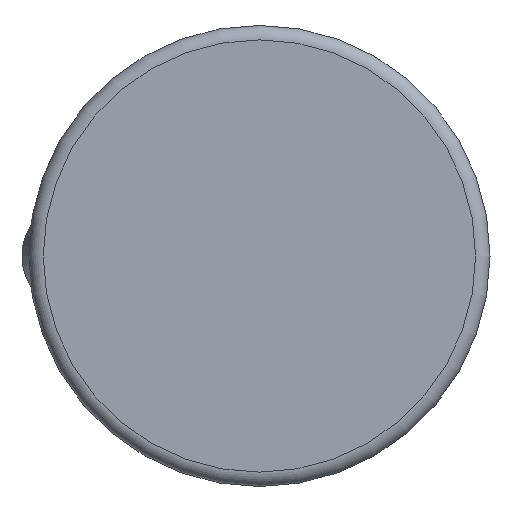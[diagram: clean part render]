
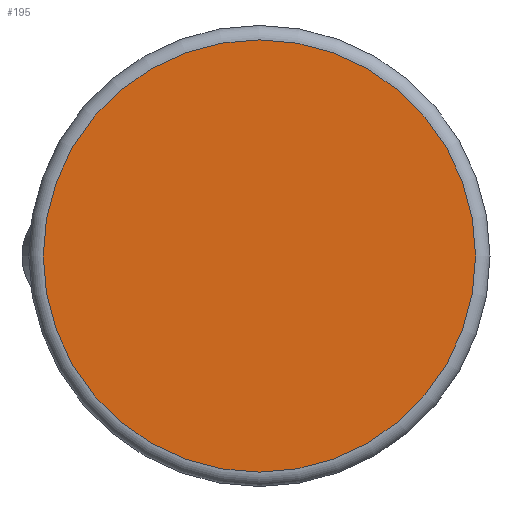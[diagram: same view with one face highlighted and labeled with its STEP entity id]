
A CAD part, front view. The second image highlights one B-rep face of the part: STEP entity #195.
In plain terms, the highlighted planar face has unit normal (0, -1, 0).
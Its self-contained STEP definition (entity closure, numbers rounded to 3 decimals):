
#195 = ADVANCED_FACE( '', ( #374 ), #375, .F. );
#374 = FACE_OUTER_BOUND( '', #556, .T. );
#375 = PLANE( '', #557 );
#556 = EDGE_LOOP( '', ( #865 ) );
#557 = AXIS2_PLACEMENT_3D( '', #866, #867, #868 );
#865 = ORIENTED_EDGE( '', *, *, #1114, .T. );
#866 = CARTESIAN_POINT( '', ( 15., 0., 0. ) );
#867 = DIRECTION( '', ( 0., 1., 0. ) );
#868 = DIRECTION( '', ( 0., 0., 1. ) );
#1114 = EDGE_CURVE( '', #1306, #1306, #1307, .T. );
#1306 = VERTEX_POINT( '', #1757 );
#1307 = CIRCLE( '', #1758, 15. );
#1757 = CARTESIAN_POINT( '', ( 0., 0., -15. ) );
#1758 = AXIS2_PLACEMENT_3D( '', #1888, #1889, #1890 );
#1888 = CARTESIAN_POINT( '', ( 0., 0., 0. ) );
#1889 = DIRECTION( '', ( 0., -1., 0. ) );
#1890 = DIRECTION( '', ( 0., 0., -1. ) );
